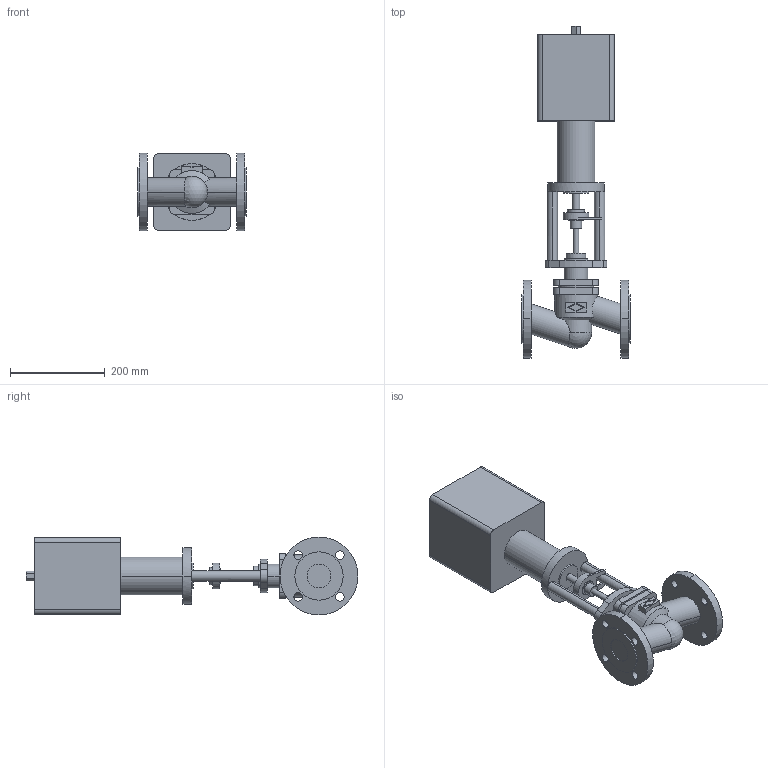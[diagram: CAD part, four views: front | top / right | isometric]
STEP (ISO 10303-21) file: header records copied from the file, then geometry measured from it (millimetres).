
FILE_DESCRIPTION( ( '' ), '1' );
FILE_NAME( 'F:/DE-SHS/TB/OR/04-Sonstiges/daten/files_3d/440-FR2.2/440-PN40-FR2_2/c000004541.stp', '2014-11-06T10:26:02', ( '' ), ( '' ), ' ', ' ', ' ' );
FILE_SCHEMA( ( 'CONFIG_CONTROL_DESIGN' ) );
Length unit declared in the file: millimetre
Products named in the file (2): 1; 2
Bounding box: 230 x 702.5 x 165 mm (x, y, z)
Volume: 7911217.9 mm3; surface area: 460724.5 mm2
Topology: 2 solids, 2 shells, 162 faces, 395 edges, 261 vertices
Faces by surface type: cylinder 82, plane 77, cone 2, sphere 1
Entity records: 5397 total; most frequent: CARTESIAN_POINT 1314, DIRECTION 883, ORIENTED_EDGE 786, EDGE_CURVE 393, AXIS2_PLACEMENT_3D 340, VERTEX_POINT 261, EDGE_LOOP 204, LINE 203
